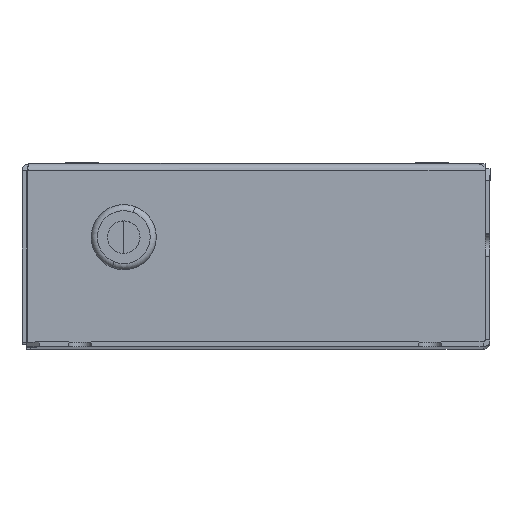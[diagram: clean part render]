
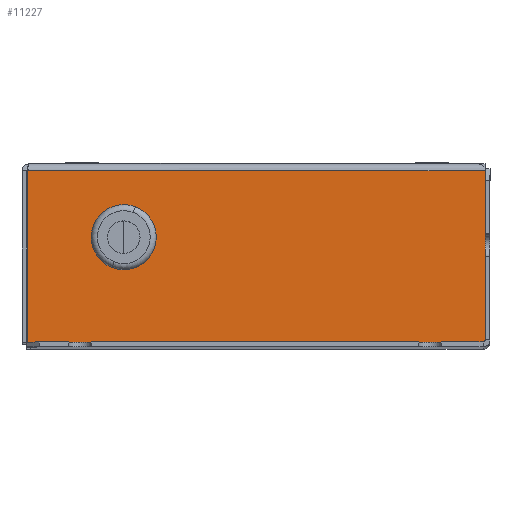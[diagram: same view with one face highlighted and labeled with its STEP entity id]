
A CAD part, top view. The second image highlights one B-rep face of the part: STEP entity #11227.
In plain terms, the highlighted planar face has unit normal (0, 0, 1) as drawn and (0, 0, -1) by its records, which use the part's own axes.
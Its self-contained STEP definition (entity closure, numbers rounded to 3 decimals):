
#12 = EDGE_CURVE ( 'NONE', #4516, #11251, #266, .T. ) ;
#94 = VERTEX_POINT ( 'NONE', #4829 ) ;
#231 = VECTOR ( 'NONE', #7351, 1000. ) ;
#266 = LINE ( 'NONE', #2945, #1391 ) ;
#312 = AXIS2_PLACEMENT_3D ( 'NONE', #9257, #9391, #6220 ) ;
#350 = VECTOR ( 'NONE', #4518, 1000. ) ;
#772 = AXIS2_PLACEMENT_3D ( 'NONE', #5915, #8789, #11845 ) ;
#779 = EDGE_LOOP ( 'NONE', ( #1354, #7589, #3922, #5748 ) ) ;
#842 = CIRCLE ( 'NONE', #925, 6.25 ) ;
#925 = AXIS2_PLACEMENT_3D ( 'NONE', #10649, #10694, #12752 ) ;
#1354 = ORIENTED_EDGE ( 'NONE', *, *, #12, .F. ) ;
#1391 = VECTOR ( 'NONE', #10134, 1000. ) ;
#1608 = CARTESIAN_POINT ( 'NONE',  ( 88.8, -10.55, -285. ) ) ;
#1758 = VERTEX_POINT ( 'NONE', #10648 ) ;
#2785 = VECTOR ( 'NONE', #6857, 1000. ) ;
#2945 = CARTESIAN_POINT ( 'NONE',  ( 0., -0.5, -285. ) ) ;
#3763 = LINE ( 'NONE', #8845, #2785 ) ;
#3922 = ORIENTED_EDGE ( 'NONE', *, *, #5130, .T. ) ;
#4037 = CIRCLE ( 'NONE', #772, 6.25 ) ;
#4216 = VERTEX_POINT ( 'NONE', #4529 ) ;
#4238 = CARTESIAN_POINT ( 'NONE',  ( 113.8, -42.6, -285. ) ) ;
#4516 = VERTEX_POINT ( 'NONE', #10309 ) ;
#4518 = DIRECTION ( 'NONE',  ( 0., 1., 0. ) ) ;
#4529 = CARTESIAN_POINT ( 'NONE',  ( 112.529, -42.6, -285. ) ) ;
#4531 = FACE_OUTER_BOUND ( 'NONE', #779, .T. ) ;
#4829 = CARTESIAN_POINT ( 'NONE',  ( 0., -42.6, -285. ) ) ;
#5130 = EDGE_CURVE ( 'NONE', #4216, #94, #11411, .T. ) ;
#5239 = CARTESIAN_POINT ( 'NONE',  ( 0., -0.5, -285. ) ) ;
#5748 = ORIENTED_EDGE ( 'NONE', *, *, #10812, .T. ) ;
#5833 = FACE_BOUND ( 'NONE', #11611, .T. ) ;
#5915 = CARTESIAN_POINT ( 'NONE',  ( 88.8, -16.8, -285. ) ) ;
#6220 = DIRECTION ( 'NONE',  ( 0., -1., 0. ) ) ;
#6857 = DIRECTION ( 'NONE',  ( 0., -1., 0. ) ) ;
#7351 = DIRECTION ( 'NONE',  ( -1., 0., 0. ) ) ;
#7589 = ORIENTED_EDGE ( 'NONE', *, *, #7863, .T. ) ;
#7778 = VERTEX_POINT ( 'NONE', #1608 ) ;
#7863 = EDGE_CURVE ( 'NONE', #4516, #4216, #3763, .T. ) ;
#8246 = PLANE ( 'NONE',  #312 ) ;
#8789 = DIRECTION ( 'NONE',  ( 0., 0., -1. ) ) ;
#8845 = CARTESIAN_POINT ( 'NONE',  ( 112.529, 0., -285. ) ) ;
#9257 = CARTESIAN_POINT ( 'NONE',  ( 113.8, 0., -285. ) ) ;
#9391 = DIRECTION ( 'NONE',  ( 0., 0., 1. ) ) ;
#9700 = ORIENTED_EDGE ( 'NONE', *, *, #11438, .F. ) ;
#10098 = EDGE_CURVE ( 'NONE', #1758, #7778, #842, .T. ) ;
#10134 = DIRECTION ( 'NONE',  ( -1., 0., 0. ) ) ;
#10309 = CARTESIAN_POINT ( 'NONE',  ( 112.529, -0.5, -285. ) ) ;
#10648 = CARTESIAN_POINT ( 'NONE',  ( 88.8, -23.05, -285. ) ) ;
#10649 = CARTESIAN_POINT ( 'NONE',  ( 88.8, -16.8, -285. ) ) ;
#10676 = CARTESIAN_POINT ( 'NONE',  ( 0., 0., -285. ) ) ;
#10694 = DIRECTION ( 'NONE',  ( 0., 0., -1. ) ) ;
#10708 = LINE ( 'NONE', #10676, #350 ) ;
#10812 = EDGE_CURVE ( 'NONE', #94, #11251, #10708, .T. ) ;
#11227 = ADVANCED_FACE ( 'NONE', ( #5833, #4531 ), #8246, .F. ) ;
#11251 = VERTEX_POINT ( 'NONE', #5239 ) ;
#11411 = LINE ( 'NONE', #4238, #231 ) ;
#11438 = EDGE_CURVE ( 'NONE', #7778, #1758, #4037, .T. ) ;
#11611 = EDGE_LOOP ( 'NONE', ( #9700, #12898 ) ) ;
#11845 = DIRECTION ( 'NONE',  ( 0., 1., 0. ) ) ;
#12752 = DIRECTION ( 'NONE',  ( 0., 1., 0. ) ) ;
#12898 = ORIENTED_EDGE ( 'NONE', *, *, #10098, .F. ) ;
